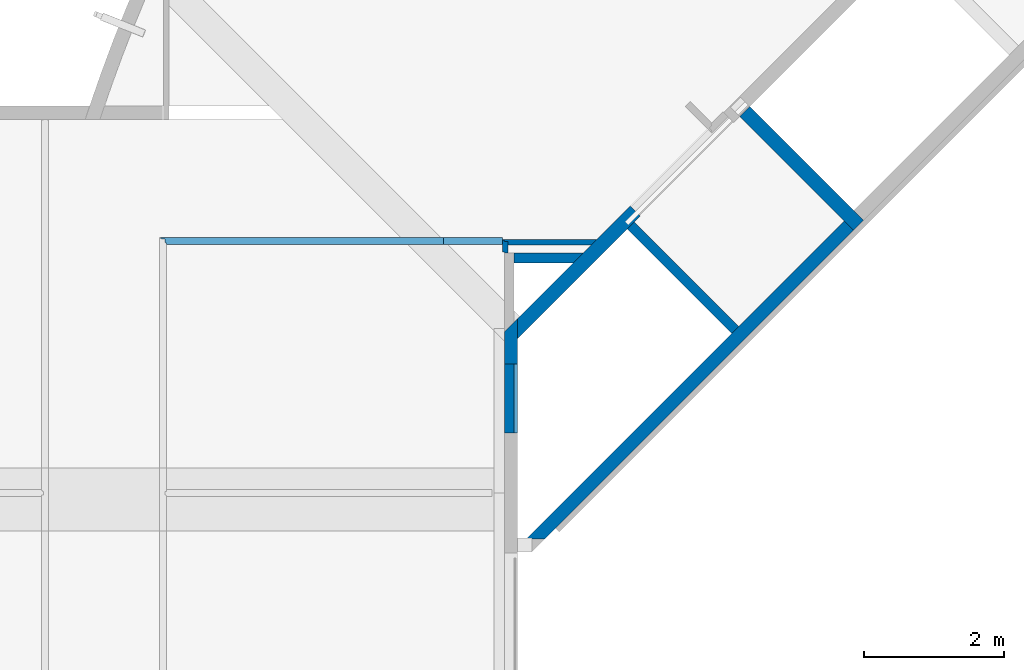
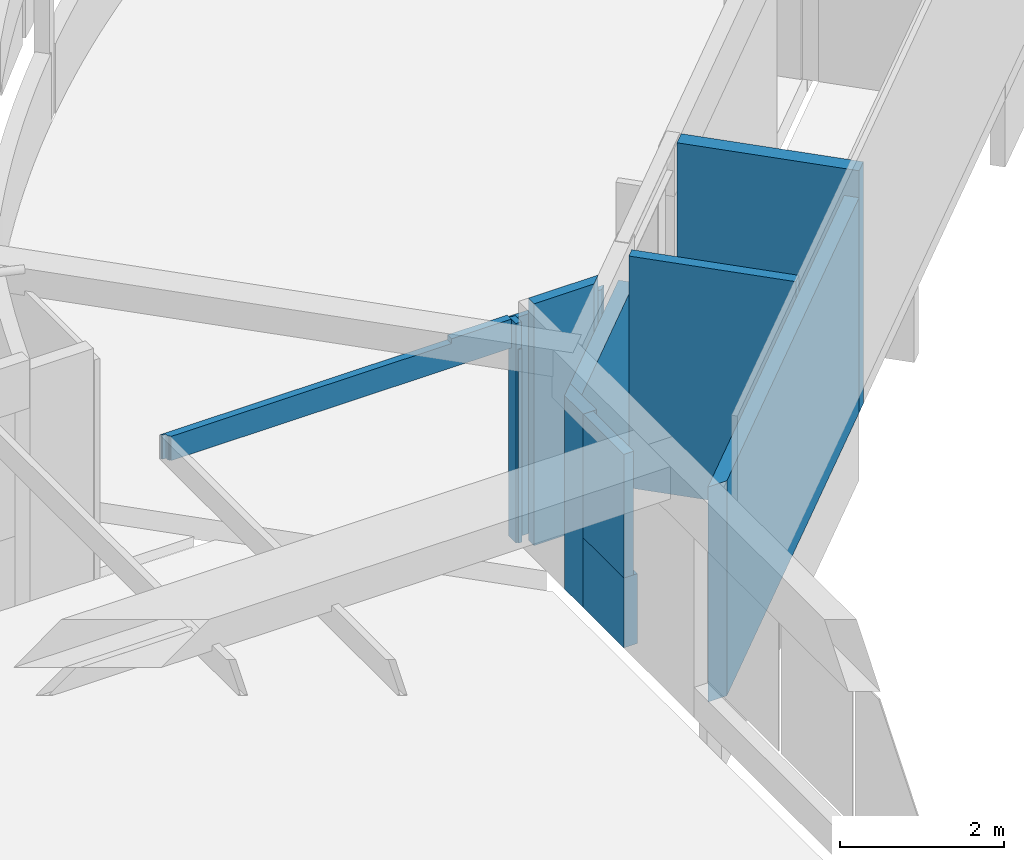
# One storey, part 13 of 26: 11 walls.
"""IFC4X3_ADD2 building model written with IfcOpenShell, lengths in millimetres."""

from ifc_helpers import new_model, si_unit, direction, frame, frame_2d, origin_with_axes, origin_2d_with_axis, place, context, subcontext, project, spatial, polyline, rectangle, outline, extrude, source, transform, mapped, material, type_object, type_shapes, element, save


model = new_model("IFC4X3_ADD2")

# Units and contexts
model_context = context("Model", 3, precision=1e-05, world=origin_with_axes(), true_north=direction((0.0, 1.0)))
body_context = subcontext(model_context, "Body", "Model", "MODEL_VIEW")
ifc_project = project(units=[si_unit("LENGTHUNIT", "METRE", prefix="MILLI"), si_unit("AREAUNIT", "SQUARE_METRE"), si_unit("VOLUMEUNIT", "CUBIC_METRE"), si_unit("PLANEANGLEUNIT", "RADIAN"), si_unit("TIMEUNIT", "SECOND"), si_unit("MASSUNIT", "GRAM")], contexts=[model_context])

# Site, building, storey
site_placement = place(None, origin_with_axes())
site = spatial("IfcSite", under=ifc_project, at=site_placement, Name="Site", CompositionType="ELEMENT")
building_placement = place(site_placement, origin_with_axes())
building = spatial("IfcBuilding", under=site, at=building_placement, Name="IFC Building Story")
storey_placement = place(building_placement, frame((0.0, 0.0, 7200.0), z_axis=(0.0, 0.0, 1.0), x_axis=(1.0, 0.0, 0.0)))
storey = spatial("IfcBuildingStorey", under=building, at=storey_placement, Name="020", Elevation=7200.0)

# Walls
ifc_material_1 = material(Name="BB_Beton_Bestaand")
wall_type_1 = type_object("IfcWallType", Name="BB_Beton_Bestaand 200", PredefinedType="NOTDEFINED", material=ifc_material_1)
wall_1_placement = place(storey_placement, origin_with_axes())
element("IfcWall", 1, at=wall_1_placement, inside=storey, type_object=wall_type_1, Name="Basic Wall:BB_XX_Wand uit beton, 200 mm", ObjectType="Basic Wall:BB_XX_Wand uit beton, 200 mm", PredefinedType="SOLIDWALL", context=body_context, shape_type="SweptSolid", body=[
    extrude(rectangle(XDim=2299.999999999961, YDim=199.9999999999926, at=frame_2d((0.0, 0.0), x_axis=(0.707106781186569, -0.707106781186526))), frame((-34551.52543263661, 29835.12320212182, -200.0), z_axis=(0.0, 0.0, 1.0), x_axis=(1.0, 0.0, 0.0)), (0.0, 0.0, 1.0), 3600.0),
])
wall_2_placement = place(storey_placement, origin_with_axes())
element("IfcWall", 2, at=wall_2_placement, inside=storey, type_object=wall_type_1, Name="Basic Wall:BB_XX_Wand uit beton, 200 mm", ObjectType="Basic Wall:BB_XX_Wand uit beton, 200 mm", PredefinedType="SOLIDWALL", context=body_context, shape_type="SweptSolid", body=[
    extrude(outline(polyline([(-838.7978912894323, -697.3765350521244), (768.0872131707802, 909.5085694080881), (909.5085694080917, 768.0872131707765), (-838.7978912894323, -980.2192475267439), (-838.7978912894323, -697.3765350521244)])), frame((-37766.20210871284, 28388.21347901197, -200.0), z_axis=(0.0, 0.0, 1.0), x_axis=(1.0, 0.0, 0.0)), (0.0, 0.0, 1.0), 2880.0),
])
wall_type_2 = type_object("IfcWallType", Name="BB_Beton_Bestaand 190", PredefinedType="NOTDEFINED", material=ifc_material_1)
wall_3_placement = place(storey_placement, origin_with_axes())
element("IfcWall", 3, at=wall_3_placement, inside=storey, type_object=wall_type_2, Name="Basic Wall:BB_XX_Wand uit beton, 190 mm", ObjectType="Basic Wall:BB_XX_Wand uit beton, 190 mm", PredefinedType="SOLIDWALL", context=body_context, shape_type="SweptSolid", body=[
    extrude(rectangle(XDim=990.0000000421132, YDim=190.0, at=frame_2d((0.0, 0.0), x_axis=(0.0, 1.0))), frame((-38700.0, 26549.99999997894, -200.0), z_axis=(0.0, 0.0, 1.0), x_axis=(1.0, 0.0, 0.0)), (0.0, 0.0, 1.0), 1040.0),
])
wall_4_placement = place(storey_placement, origin_with_axes())
element("IfcWall", 4, at=wall_4_placement, inside=storey, type_object=wall_type_2, Name="Basic Wall:BB_XX_Wand uit beton, 190 mm", ObjectType="Basic Wall:BB_XX_Wand uit beton, 190 mm", PredefinedType="SOLIDWALL", context=body_context, shape_type="SweptSolid", body=[
    extrude(outline(polyline([(-95.0, -275.4184719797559), (-95.0, 180.4184719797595), (95.0, 370.4184719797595), (95.0, -275.4184719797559), (-95.0, -275.4184719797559)])), frame((-38700.0, 27320.41847198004, -200.0), z_axis=(0.0, 0.0, 1.0), x_axis=(1.0, 0.0, 0.0)), (0.0, 0.0, 1.0), 2880.0),
])
ifc_material_2 = material(Name="BB_Metselwerk_Bestaand")
wall_type_3 = type_object("IfcWallType", Name="BB_Metselwerk_Bestaand 140", PredefinedType="NOTDEFINED", material=ifc_material_2)
wall_5_placement = place(storey_placement, origin_with_axes())
element("IfcWall", 5, at=wall_5_placement, inside=storey, type_object=wall_type_3, Name="Basic Wall:BB_XX_Wand uit metselwerk, 140 mm", ObjectType="Basic Wall:BB_XX_Wand uit metselwerk, 140 mm", PredefinedType="SOLIDWALL", context=body_context, shape_type="SweptSolid", body=[
    extrude(outline(polyline([(386.5815280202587, -70.0), (-456.5815280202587, -69.99999999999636), (-456.5815280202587, 70.0), (526.5815280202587, 70.0), (386.5815280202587, -70.0)])), frame((-38198.41847197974, 28554.0, -200.0), z_axis=(0.0, 0.0, 1.0), x_axis=(1.0, 0.0, 0.0)), (0.0, 0.0, 1.0), 3600.0),
])
ifc_material_3 = material(Name="BB_Metselwerk_Betonsteen")
wall_type_4 = type_object("IfcWallType", Name="BB_Metselwerk_Betonsteen 190", PredefinedType="NOTDEFINED", material=ifc_material_3)
wall_6_placement = place(storey_placement, origin_with_axes())
element("IfcWall", 6, at=wall_6_placement, inside=storey, type_object=wall_type_4, Name="Basic Wall:BB_03.09.24#05_Wand uit metselwerk_EI60, 190 mm", ObjectType="Basic Wall:BB_03.09.24#05_Wand uit metselwerk_EI60, 190 mm", PredefinedType="SOLIDWALL", context=body_context, shape_type="SweptSolid", body=[
    extrude(outline(polyline([(2303.882579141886, 2169.532290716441), (-2102.357146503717, -2236.707434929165), (-2371.057723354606, -2236.707434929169), (2169.532290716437, 2303.882579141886), (2303.882579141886, 2169.532290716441)])), frame((-36112.94589153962, 26781.70743492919, -200.0), z_axis=(0.0, 0.0, 1.0), x_axis=(1.0, 0.0, 0.0)), (0.0, 0.0, 1.0), 3200.0),
])
wall_type_5 = type_object("IfcWallType", Name="Basic Wall_BB_10.01.41#01_Gipskartonwand_MS100 _ 25.50.25_ 100 mm123", PredefinedType="NOTDEFINED")
shared_shape_1 = source(origin_with_axes(), body_context, "Body", "SweptSolid", [
    extrude(outline(polyline([(1908.726985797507, 263.3333333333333), (1908.726985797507, -166.6666666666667), (1065.046028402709, -166.6666666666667), (1065.046028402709, -96.66666666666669), (-2973.773014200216, -96.66666666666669), (-2973.773014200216, 263.3333333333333), (1908.726985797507, 263.3333333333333)])), frame((2886.273014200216, 37.5, 263.3333333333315), z_axis=(0.0, 1.0, 0.0), x_axis=(1.0, 0.0, 0.0)), (0.0, 0.0, 1.0), 12.5),
    extrude(outline(polyline([(1904.56031913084, 263.3333333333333), (1904.56031913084, -166.6666666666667), (1060.879361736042, -166.6666666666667), (1060.879361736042, -96.66666666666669), (-2965.439680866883, -96.66666666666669), (-2965.439680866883, 263.3333333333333), (1904.56031913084, 263.3333333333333)])), frame((2890.439680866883, 25.0, 263.3333333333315), z_axis=(0.0, 1.0, 0.0), x_axis=(1.0, 0.0, 0.0)), (0.0, 0.0, 1.0), 12.5),
    extrude(outline(polyline([(1887.893652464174, 263.3333333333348), (1887.893652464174, -166.666666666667), (1044.212695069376, -166.666666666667), (1044.212695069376, -96.66666666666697), (-2932.106347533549, -96.66666666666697), (-2932.106347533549, 263.333333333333), (1887.893652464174, 263.3333333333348)])), frame((2907.106347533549, -25.0, 263.3333333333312), z_axis=(0.0, 1.0, 0.0), x_axis=(1.0, 0.0, 0.0)), (0.0, 0.0, 1.0), 49.99999999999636),
    extrude(outline(polyline([(1883.726985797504, 263.3333333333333), (1883.726985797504, -166.6666666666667), (1040.046028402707, -166.6666666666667), (1040.046028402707, -96.66666666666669), (-2923.773014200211, -96.66666666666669), (-2923.773014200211, 263.3333333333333), (1883.726985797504, 263.3333333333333)])), frame((2911.273014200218, -37.5, 263.3333333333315), z_axis=(0.0, 1.0, 0.0), x_axis=(1.0, 0.0, 0.0)), (0.0, 0.0, 1.0), 12.5),
    extrude(outline(polyline([(-2915.43968086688, 263.3333333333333), (1879.560319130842, 263.3333333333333), (1879.560319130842, -166.6666666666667), (1035.879361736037, -166.6666666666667), (1035.879361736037, -96.66666666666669), (-2915.43968086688, -96.66666666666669), (-2915.43968086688, 263.3333333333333)])), frame((2915.43968086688, -50.0, 263.3333333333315), z_axis=(0.0, 1.0, 0.0), x_axis=(1.0, 0.0, 0.0)), (0.0, 0.0, 1.0), 12.49999999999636),
])
type_shapes(wall_type_5, [shared_shape_1])
wall_7_placement = place(storey_placement, frame((-43615.0, 28800.0, 2640.0), z_axis=(0.0, 0.0, 1.0), x_axis=(1.0, 0.0, 0.0)))
element("IfcWall", 7, at=wall_7_placement, inside=storey, type_object=wall_type_5, Name="Basic Wall:BB_10.01.41#01_Gipskartonwand_MS100 / 25.50.25, 100 mm", ObjectType="Basic Wall:BB_10.01.41#01_Gipskartonwand_MS100 / 25.50.25, 100 mm", PredefinedType="PARTITIONING", context=body_context, shape_type="MappedRepresentation", body=[
    mapped(shared_shape_1, transform((0.0, 0.0, 0.0))),
])
wall_type_6 = type_object("IfcWallType", Name="Basic Wall_BB_10.01.62#01_Voorzetwand gipskarton_MS75 _ 50.25_ 75 mm25", PredefinedType="NOTDEFINED")
shared_shape_2 = source(origin_with_axes(), body_context, "Body", "SweptSolid", [
    extrude(rectangle(XDim=178.5000000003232, YDim=12.50000000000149, at=origin_2d_with_axis()), frame((89.2500000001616, 31.24999999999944, 0.0), z_axis=(0.0, 0.0, 1.0), x_axis=(1.0, 0.0, 0.0)), (0.0, 0.0, 1.0), 3270.0),
    extrude(rectangle(XDim=166.0000000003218, YDim=12.49999999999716, at=origin_2d_with_axis()), frame((83.00000000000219, 18.7500000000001, 0.0), z_axis=(0.0, 0.0, 1.0), x_axis=(1.0, 0.0, 0.0)), (0.0, 0.0, 1.0), 3270.0),
    extrude(outline(polyline([(-61.16666666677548, -830.0000000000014), (-61.16666666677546, 2050.0), (107.33333333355, 2050.0), (107.33333333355, -1219.999999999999), (-46.16666666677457, -1220.0), (-46.16666666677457, -830.0000000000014), (-61.16666666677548, -830.0000000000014)])), frame((46.16666666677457, -37.50000000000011, 2050.0), z_axis=(0.0, 1.0, 0.0), x_axis=(1.0, 0.0, 0.0)), (0.0, 0.0, 1.0), 50.00000000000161),
])
type_shapes(wall_type_6, [shared_shape_2])
wall_8_placement = place(storey_placement, frame((-38782.5000000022, 28639.0, -200.0), z_axis=(0.0, 0.0, 1.0), x_axis=(0.0, 1.0, 0.0)))
element("IfcWall", 8, at=wall_8_placement, inside=storey, type_object=wall_type_6, Name="Basic Wall:BB_10.01.62#01_Voorzetwand gipskarton_MS75 / 50.25, 75 mm", ObjectType="Basic Wall:BB_10.01.62#01_Voorzetwand gipskarton_MS75 / 50.25, 75 mm", PredefinedType="PARTITIONING", context=body_context, shape_type="MappedRepresentation", body=[
    mapped(shared_shape_2, transform((0.0, 0.0, 0.0))),
])
wall_type_7 = type_object("IfcWallType", Name="Basic Wall_BB_10.01.62#01_Voorzetwand gipskarton_MS75 _ 50.25_ 75 mm27", PredefinedType="NOTDEFINED")
shared_shape_3 = source(origin_with_axes(), body_context, "Body", "SweptSolid", [
    extrude(outline(polyline([(-661.456528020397, 6.250000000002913), (667.7065280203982, 6.249999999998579), (655.2065280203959, -6.250000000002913), (-661.456528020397, -6.249999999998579), (-661.456528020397, 6.250000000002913)])), frame((598.9565280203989, 31.2499999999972, 0.0), z_axis=(0.0, 0.0, 1.0), x_axis=(1.0, 0.0, 0.0)), (0.0, 0.0, 1.0), 3270.0),
    extrude(outline(polyline([(-648.9565280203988, 6.250000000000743), (655.2065280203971, 6.249999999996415), (642.7065280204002, -6.250000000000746), (-648.9565280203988, -6.249999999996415), (-648.9565280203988, 6.250000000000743)])), frame((598.9565280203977, 18.74999999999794, 0.0), z_axis=(0.0, 0.0, 1.0), x_axis=(1.0, 0.0, 0.0)), (0.0, 0.0, 1.0), 3270.0),
    extrude(outline(polyline([(-608.3315280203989, 25.00000000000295), (633.3315280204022, 24.99999999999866), (583.3315280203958, -25.00000000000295), (-608.3315280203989, -24.99999999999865), (-608.3315280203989, 25.00000000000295)])), frame((608.3315280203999, -12.50000000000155, 0.0), z_axis=(0.0, 0.0, 1.0), x_axis=(1.0, 0.0, 0.0)), (0.0, 0.0, 1.0), 3270.0),
])
type_shapes(wall_type_7, [shared_shape_3])
wall_9_placement = place(storey_placement, frame((-38745.0, 28780.0, -200.0), z_axis=(0.0, 0.0, 1.0), x_axis=(1.0, 0.0, 0.0)))
element("IfcWall", 9, at=wall_9_placement, inside=storey, type_object=wall_type_7, Name="Basic Wall:BB_10.01.62#01_Voorzetwand gipskarton_MS75 / 50.25, 75 mm", ObjectType="Basic Wall:BB_10.01.62#01_Voorzetwand gipskarton_MS75 / 50.25, 75 mm", PredefinedType="PARTITIONING", context=body_context, shape_type="MappedRepresentation", body=[
    mapped(shared_shape_3, transform((0.0, 0.0, 0.0))),
])
wall_type_8 = type_object("IfcWallType", Name="BB_Metselwerk_Betonsteen 140", PredefinedType="NOTDEFINED", material=ifc_material_3)
wall_10_placement = place(storey_placement, origin_with_axes())
element("IfcWall", 10, at=wall_10_placement, inside=storey, type_object=wall_type_8, Name="Basic Wall:BB_03.09.24#02_Wand uit metselwerk_EI60_43dB, 140 mm", ObjectType="Basic Wall:BB_03.09.24#02_Wand uit metselwerk_EI60_43dB, 140 mm", PredefinedType="SOLIDWALL", context=body_context, shape_type="SweptSolid", body=[
    extrude(rectangle(XDim=990.0000000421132, YDim=140.0, at=frame_2d((0.0, 0.0), x_axis=(0.0, 1.0))), frame((-38725.0, 26550.00000002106, 840.0), z_axis=(0.0, 0.0, 1.0), x_axis=(1.0, 0.0, 0.0)), (0.0, 0.0, 1.0), 1840.0),
])
wall_11_placement = place(storey_placement, origin_with_axes())
element("IfcWall", 11, at=wall_11_placement, inside=storey, type_object=wall_type_8, Name="Basic Wall:BB_03.09.24#02_Wand uit metselwerk_EI60_43dB, 140 mm", ObjectType="Basic Wall:BB_03.09.24#02_Wand uit metselwerk_EI60_43dB, 140 mm", PredefinedType="SOLIDWALL", context=body_context, shape_type="SweptSolid", body=[
    extrude(rectangle(XDim=2110.02661785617, YDim=140.0000000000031, at=frame_2d((0.0, 0.0), x_axis=(-0.7071067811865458, 0.7071067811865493))), frame((-36245.0367627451, 28275.94333877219, -200.0), z_axis=(0.0, 0.0, 1.0), x_axis=(1.0, 0.0, 0.0)), (0.0, 0.0, 1.0), 3450.0),
])

save(model, "model.ifc")
